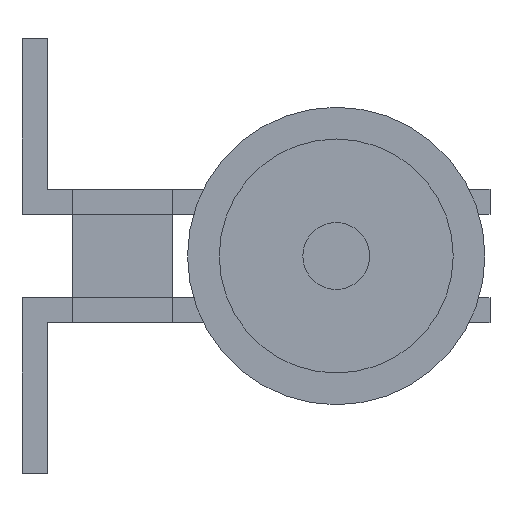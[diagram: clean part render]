
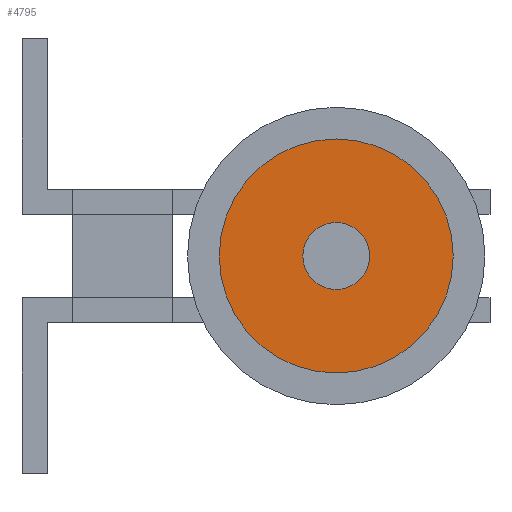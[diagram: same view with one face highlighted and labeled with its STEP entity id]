
A CAD part, front view. The second image highlights one B-rep face of the part: STEP entity #4795.
In plain terms, the highlighted planar face has unit normal (0, -1, 0).
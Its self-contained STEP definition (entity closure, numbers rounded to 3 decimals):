
#636 = DIRECTION ( 'NONE',  ( 0., 0., 1. ) ) ;
#637 = DIRECTION ( 'NONE',  ( 0., 1., 0. ) ) ;
#638 = AXIS2_PLACEMENT_3D ( 'NONE', #650, #637, #636 ) ;
#639 = CIRCLE ( 'NONE', #638, 2. ) ;
#650 = CARTESIAN_POINT ( 'NONE',  ( 0., 0., 0. ) ) ;
#652 = CARTESIAN_POINT ( 'NONE',  ( 0., 0., -2. ) ) ;
#657 = CARTESIAN_POINT ( 'NONE',  ( 0., 0., 2. ) ) ;
#2900 = CARTESIAN_POINT ( 'NONE',  ( 0., 0., -7. ) ) ;
#2901 = DIRECTION ( 'NONE',  ( 0., 0., 1. ) ) ;
#2902 = DIRECTION ( 'NONE',  ( 0., 1., 0. ) ) ;
#2903 = CARTESIAN_POINT ( 'NONE',  ( 0., 0., 0. ) ) ;
#2904 = AXIS2_PLACEMENT_3D ( 'NONE', #2903, #2902, #2901 ) ;
#2905 = CIRCLE ( 'NONE', #2904, 7. ) ;
#2958 = CARTESIAN_POINT ( 'NONE',  ( 0., 0., 7. ) ) ;
#3140 = VERTEX_POINT ( 'NONE', #657 ) ;
#3147 = VERTEX_POINT ( 'NONE', #652 ) ;
#3149 = EDGE_CURVE ( 'NONE', #3147, #3140, #639, .T. ) ;
#3197 = EDGE_CURVE ( 'NONE', #3228, #3198, #2905, .T. ) ;
#3198 = VERTEX_POINT ( 'NONE', #2900 ) ;
#3228 = VERTEX_POINT ( 'NONE', #2958 ) ;
#3855 = DIRECTION ( 'NONE',  ( 0., 0., 1. ) ) ;
#3856 = DIRECTION ( 'NONE',  ( 0., 1., 0. ) ) ;
#3857 = CARTESIAN_POINT ( 'NONE',  ( 0., 0., 0. ) ) ;
#3858 = AXIS2_PLACEMENT_3D ( 'NONE', #3857, #3856, #3855 ) ;
#3859 = CIRCLE ( 'NONE', #3858, 2. ) ;
#4026 = DIRECTION ( 'NONE',  ( 0., 0., 1. ) ) ;
#4027 = DIRECTION ( 'NONE',  ( 0., 1., 0. ) ) ;
#4038 = AXIS2_PLACEMENT_3D ( 'NONE', #4040, #4027, #4026 ) ;
#4039 = CIRCLE ( 'NONE', #4038, 7. ) ;
#4040 = CARTESIAN_POINT ( 'NONE',  ( 0., 0., 0. ) ) ;
#4062 = FACE_OUTER_BOUND ( 'NONE', #4777, .T. ) ;
#4093 = DIRECTION ( 'NONE',  ( 0., 0., 1. ) ) ;
#4094 = DIRECTION ( 'NONE',  ( 0., 1., 0. ) ) ;
#4095 = AXIS2_PLACEMENT_3D ( 'NONE', #4107, #4094, #4093 ) ;
#4106 = PLANE ( 'NONE',  #4095 ) ;
#4107 = CARTESIAN_POINT ( 'NONE',  ( 0., 0., 0. ) ) ;
#4108 = FACE_BOUND ( 'NONE', #4775, .T. ) ;
#4728 = EDGE_CURVE ( 'NONE', #3140, #3147, #3859, .T. ) ;
#4774 = ORIENTED_EDGE ( 'NONE', *, *, #3197, .F. ) ;
#4775 = EDGE_LOOP ( 'NONE', ( #4781, #4779 ) ) ;
#4776 = EDGE_CURVE ( 'NONE', #3198, #3228, #4039, .T. ) ;
#4777 = EDGE_LOOP ( 'NONE', ( #4782, #4774 ) ) ;
#4779 = ORIENTED_EDGE ( 'NONE', *, *, #4728, .T. ) ;
#4781 = ORIENTED_EDGE ( 'NONE', *, *, #3149, .T. ) ;
#4782 = ORIENTED_EDGE ( 'NONE', *, *, #4776, .F. ) ;
#4795 = ADVANCED_FACE ( 'NONE', ( #4062, #4108 ), #4106, .F. ) ;
